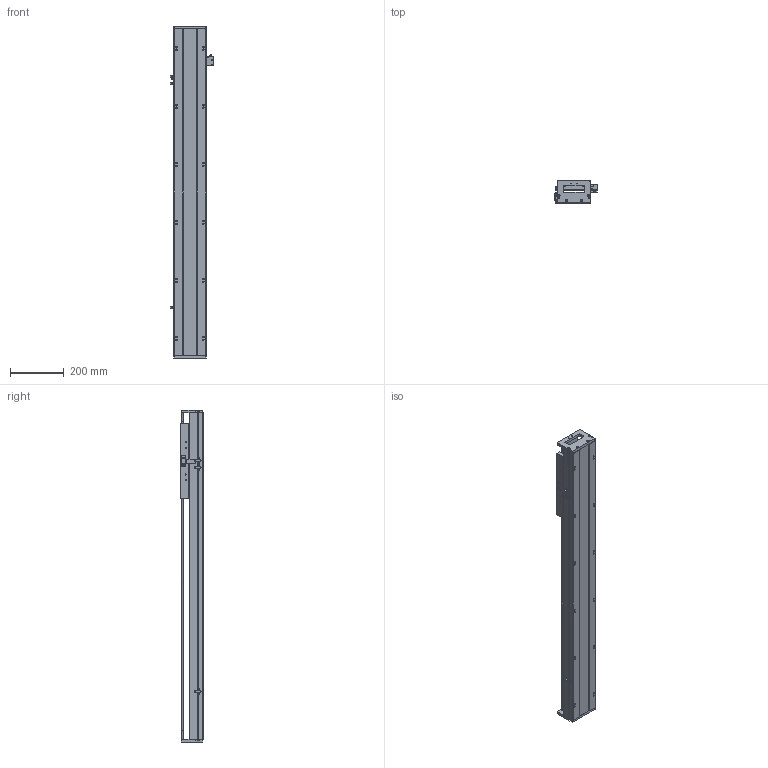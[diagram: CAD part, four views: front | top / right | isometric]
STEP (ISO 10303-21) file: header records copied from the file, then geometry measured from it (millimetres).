
FILE_DESCRIPTION (( 'STEP AP203' ), '1' );
FILE_NAME ('SKR12S-C2-S856（简）.STEP', '2022-09-26T03:25:49', ( '' ), ( '' ), 'SwSTEP 2.0', 'SolidWorks 2018', '' );
FILE_SCHEMA (( 'CONFIG_CONTROL_DESIGN' ));
Length unit declared in the file: millimetre
Products named in the file (8): SIKO棠掑; SKR12菁釱-C2-S856(潠); SKR12S-C2-S856（简）; EE-SX672; 覜茼え; SKR12滑台-280L（简）; SKR12耜啣; 棠掑假蚾輸
Assembly tree (10 placements, depth 2):
  SKR12S-C2-S856（简）
    SKR12菁釱-C2-S856(潠)
    SKR12滑台-280L（简）
    SKR12耜啣  x2
    棠掑假蚾輸
    SIKO棠掑
    EE-SX672  x3
    覜茼え
Bounding box: 162.7 x 87.3 x 1236 mm (x, y, z)
Volume: 5823237.7 mm3; surface area: 935750.7 mm2
Topology: 11 solids, 11 shells, 984 faces, 2615 edges, 1653 vertices
Faces by surface type: cylinder 450, plane 400, cone 134
Entity records: 26745 total; most frequent: CARTESIAN_POINT 5347, DIRECTION 4427, ORIENTED_EDGE 4194, EDGE_CURVE 2097, AXIS2_PLACEMENT_3D 1637, VERTEX_POINT 1357, LINE 1153, VECTOR 1153
